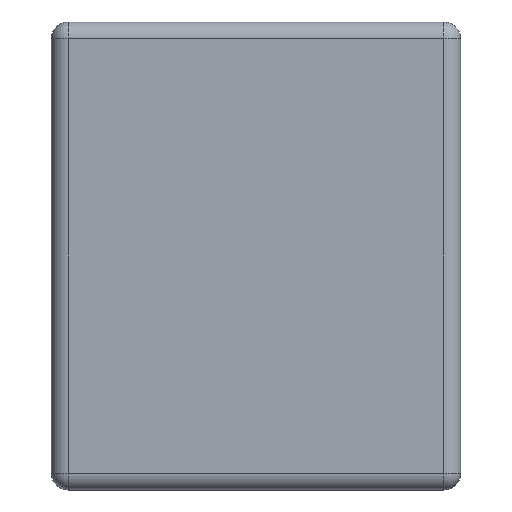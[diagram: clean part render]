
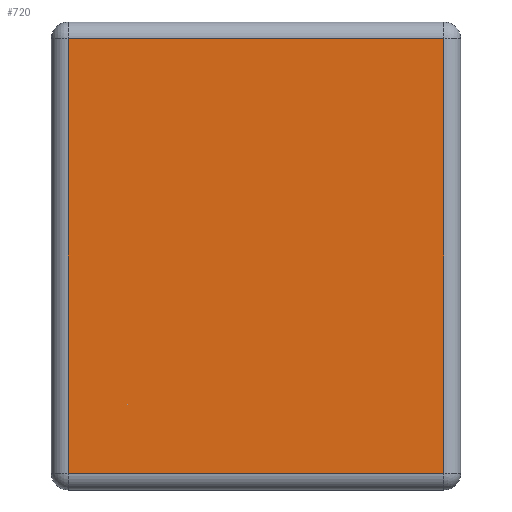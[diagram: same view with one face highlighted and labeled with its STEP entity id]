
A CAD part, left-side view. The second image highlights one B-rep face of the part: STEP entity #720.
In plain terms, the highlighted planar face has unit normal (-1, 0, 0).
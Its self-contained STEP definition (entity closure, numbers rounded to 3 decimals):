
#20 = CARTESIAN_POINT ( 'NONE',  ( -2.3, 2.8, -1.485 ) ) ;
#36 = DIRECTION ( 'NONE',  ( 0., 1., 0. ) ) ;
#117 = PLANE ( 'NONE',  #644 ) ;
#168 = LINE ( 'NONE', #20, #1024 ) ;
#172 = VERTEX_POINT ( 'NONE', #976 ) ;
#197 = VECTOR ( 'NONE', #1202, 1000. ) ;
#215 = CARTESIAN_POINT ( 'NONE',  ( -2.3, 0.115, -1.485 ) ) ;
#216 = VECTOR ( 'NONE', #643, 1000. ) ;
#240 = VERTEX_POINT ( 'NONE', #311 ) ;
#311 = CARTESIAN_POINT ( 'NONE',  ( -2.3, 2.685, -1.485 ) ) ;
#336 = VERTEX_POINT ( 'NONE', #908 ) ;
#404 = DIRECTION ( 'NONE',  ( 1., 0., 0. ) ) ;
#517 = CARTESIAN_POINT ( 'NONE',  ( -2.3, 0.115, -1.6 ) ) ;
#522 = DIRECTION ( 'NONE',  ( 0., -1., 0. ) ) ;
#558 = EDGE_LOOP ( 'NONE', ( #817, #696, #571, #969 ) ) ;
#571 = ORIENTED_EDGE ( 'NONE', *, *, #1138, .T. ) ;
#603 = DIRECTION ( 'NONE',  ( 0., 0., -1. ) ) ;
#643 = DIRECTION ( 'NONE',  ( 0., 0., -1. ) ) ;
#644 = AXIS2_PLACEMENT_3D ( 'NONE', #986, #404, #603 ) ;
#696 = ORIENTED_EDGE ( 'NONE', *, *, #1080, .T. ) ;
#704 = LINE ( 'NONE', #517, #197 ) ;
#718 = CARTESIAN_POINT ( 'NONE',  ( -2.3, 2.8, 1.485 ) ) ;
#720 = ADVANCED_FACE ( 'NONE', ( #896 ), #117, .F. ) ;
#729 = VERTEX_POINT ( 'NONE', #215 ) ;
#739 = LINE ( 'NONE', #718, #901 ) ;
#817 = ORIENTED_EDGE ( 'NONE', *, *, #990, .T. ) ;
#869 = EDGE_CURVE ( 'NONE', #172, #336, #739, .T. ) ;
#896 = FACE_OUTER_BOUND ( 'NONE', #558, .T. ) ;
#901 = VECTOR ( 'NONE', #36, 1000. ) ;
#908 = CARTESIAN_POINT ( 'NONE',  ( -2.3, 2.685, 1.485 ) ) ;
#969 = ORIENTED_EDGE ( 'NONE', *, *, #869, .T. ) ;
#976 = CARTESIAN_POINT ( 'NONE',  ( -2.3, 0.115, 1.485 ) ) ;
#986 = CARTESIAN_POINT ( 'NONE',  ( -2.3, 2.8, -1.6 ) ) ;
#990 = EDGE_CURVE ( 'NONE', #336, #240, #1009, .T. ) ;
#1009 = LINE ( 'NONE', #1140, #216 ) ;
#1024 = VECTOR ( 'NONE', #522, 1000. ) ;
#1080 = EDGE_CURVE ( 'NONE', #240, #729, #168, .T. ) ;
#1138 = EDGE_CURVE ( 'NONE', #729, #172, #704, .T. ) ;
#1140 = CARTESIAN_POINT ( 'NONE',  ( -2.3, 2.685, -1.6 ) ) ;
#1202 = DIRECTION ( 'NONE',  ( 0., 0., 1. ) ) ;
